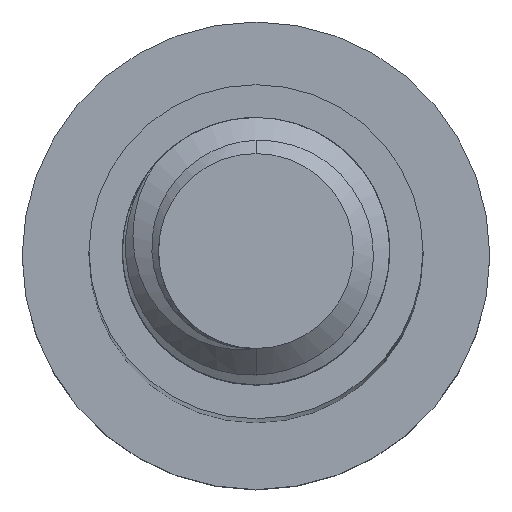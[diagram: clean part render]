
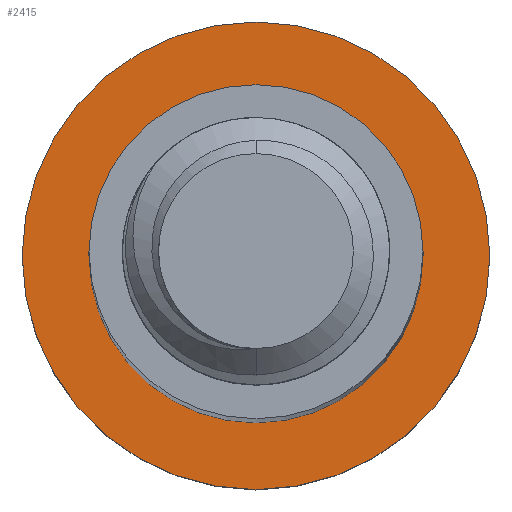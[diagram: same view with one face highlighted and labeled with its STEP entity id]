
A CAD part, top view. The second image highlights one B-rep face of the part: STEP entity #2415.
In plain terms, the highlighted planar face has unit normal (0, 0, 1).
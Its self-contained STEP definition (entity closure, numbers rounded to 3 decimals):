
#56 = EDGE_CURVE ( 'NONE', #3637, #509, #1912, .T. ) ;
#91 = DIRECTION ( 'NONE',  ( -1., 0., 0. ) ) ;
#117 = DIRECTION ( 'NONE',  ( 0., 0., -1. ) ) ;
#147 = DIRECTION ( 'NONE',  ( -1., 0., 0. ) ) ;
#221 = EDGE_LOOP ( 'NONE', ( #552, #1744 ) ) ;
#509 = VERTEX_POINT ( 'NONE', #1879 ) ;
#536 = CARTESIAN_POINT ( 'NONE',  ( -5., 0., -70. ) ) ;
#552 = ORIENTED_EDGE ( 'NONE', *, *, #3250, .F. ) ;
#703 = CIRCLE ( 'NONE', #1779, 5. ) ;
#716 = CARTESIAN_POINT ( 'NONE',  ( 0., 0., -70. ) ) ;
#741 = FACE_BOUND ( 'NONE', #987, .T. ) ;
#987 = EDGE_LOOP ( 'NONE', ( #1824, #1202 ) ) ;
#1060 = CARTESIAN_POINT ( 'NONE',  ( -7., 0., -70. ) ) ;
#1097 = DIRECTION ( 'NONE',  ( -1., 0., 0. ) ) ;
#1202 = ORIENTED_EDGE ( 'NONE', *, *, #1795, .T. ) ;
#1411 = DIRECTION ( 'NONE',  ( -1., 0., 0. ) ) ;
#1412 = PLANE ( 'NONE',  #2948 ) ;
#1744 = ORIENTED_EDGE ( 'NONE', *, *, #56, .F. ) ;
#1777 = DIRECTION ( 'NONE',  ( 0., 0., -1. ) ) ;
#1779 = AXIS2_PLACEMENT_3D ( 'NONE', #2379, #1777, #3695 ) ;
#1795 = EDGE_CURVE ( 'NONE', #1880, #1965, #703, .T. ) ;
#1824 = ORIENTED_EDGE ( 'NONE', *, *, #3761, .T. ) ;
#1879 = CARTESIAN_POINT ( 'NONE',  ( 7., 0., -70. ) ) ;
#1880 = VERTEX_POINT ( 'NONE', #3092 ) ;
#1912 = CIRCLE ( 'NONE', #3626, 7. ) ;
#1965 = VERTEX_POINT ( 'NONE', #536 ) ;
#1997 = AXIS2_PLACEMENT_3D ( 'NONE', #3042, #117, #1411 ) ;
#2007 = DIRECTION ( 'NONE',  ( 0., 0., -1. ) ) ;
#2031 = FACE_OUTER_BOUND ( 'NONE', #221, .T. ) ;
#2199 = CIRCLE ( 'NONE', #3708, 7. ) ;
#2379 = CARTESIAN_POINT ( 'NONE',  ( 0., 0., -70. ) ) ;
#2402 = CIRCLE ( 'NONE', #1997, 5. ) ;
#2415 = ADVANCED_FACE ( 'NONE', ( #741, #2031 ), #1412, .F. ) ;
#2721 = CARTESIAN_POINT ( 'NONE',  ( 0., 0., -70. ) ) ;
#2948 = AXIS2_PLACEMENT_3D ( 'NONE', #2721, #4035, #1097 ) ;
#3042 = CARTESIAN_POINT ( 'NONE',  ( 0., 0., -70. ) ) ;
#3092 = CARTESIAN_POINT ( 'NONE',  ( 5., 0., -70. ) ) ;
#3250 = EDGE_CURVE ( 'NONE', #509, #3637, #2199, .T. ) ;
#3434 = CARTESIAN_POINT ( 'NONE',  ( 0., 0., -70. ) ) ;
#3626 = AXIS2_PLACEMENT_3D ( 'NONE', #3434, #4041, #147 ) ;
#3637 = VERTEX_POINT ( 'NONE', #1060 ) ;
#3695 = DIRECTION ( 'NONE',  ( -1., 0., 0. ) ) ;
#3708 = AXIS2_PLACEMENT_3D ( 'NONE', #716, #2007, #91 ) ;
#3761 = EDGE_CURVE ( 'NONE', #1965, #1880, #2402, .T. ) ;
#4035 = DIRECTION ( 'NONE',  ( 0., 0., -1. ) ) ;
#4041 = DIRECTION ( 'NONE',  ( 0., 0., -1. ) ) ;
